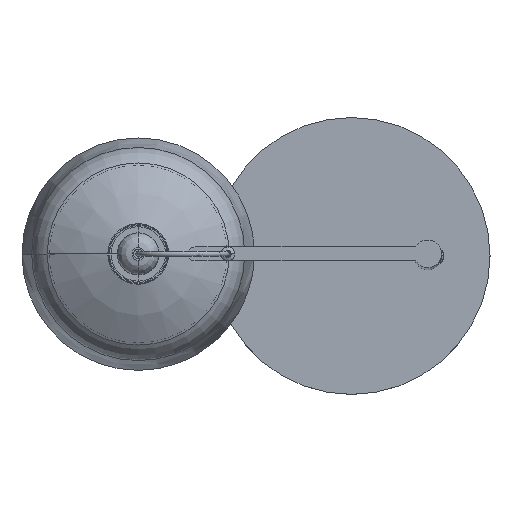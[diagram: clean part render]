
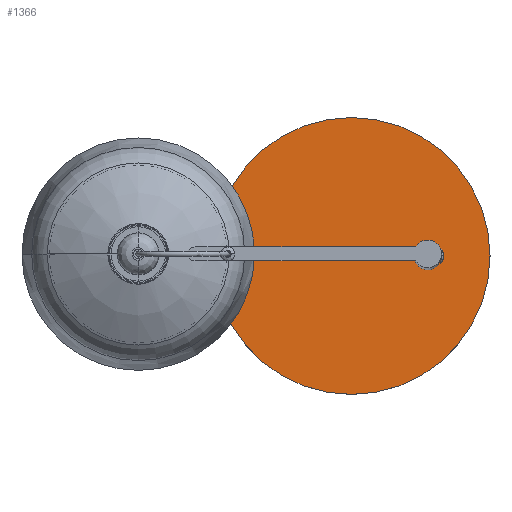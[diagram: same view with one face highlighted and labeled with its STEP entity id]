
A CAD part, top view. The second image highlights one B-rep face of the part: STEP entity #1366.
In plain terms, the highlighted planar face has unit normal (0, 0, 1).
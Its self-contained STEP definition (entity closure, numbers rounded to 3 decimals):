
#25=FACE_BOUND('',#314,.T.);
#219=FACE_OUTER_BOUND('',#313,.T.);
#313=EDGE_LOOP('',(#1210,#1211));
#314=EDGE_LOOP('',(#1212,#1213));
#384=CIRCLE('',#1515,150.);
#386=CIRCLE('',#1518,150.);
#388=CIRCLE('',#1522,15.);
#389=CIRCLE('',#1523,15.);
#655=VERTEX_POINT('',#3687);
#656=VERTEX_POINT('',#3688);
#659=VERTEX_POINT('',#3700);
#660=VERTEX_POINT('',#3701);
#840=EDGE_CURVE('',#655,#656,#384,.T.);
#844=EDGE_CURVE('',#656,#655,#386,.T.);
#846=EDGE_CURVE('',#659,#660,#388,.T.);
#847=EDGE_CURVE('',#660,#659,#389,.T.);
#1210=ORIENTED_EDGE('',*,*,#844,.T.);
#1211=ORIENTED_EDGE('',*,*,#840,.T.);
#1212=ORIENTED_EDGE('',*,*,#846,.F.);
#1213=ORIENTED_EDGE('',*,*,#847,.F.);
#1276=PLANE('',#1521);
#1366=ADVANCED_FACE('',(#219,#25),#1276,.T.);
#1515=AXIS2_PLACEMENT_3D('',#3689,#1882,#1883);
#1518=AXIS2_PLACEMENT_3D('',#3696,#1890,#1891);
#1521=AXIS2_PLACEMENT_3D('',#3699,#1896,#1897);
#1522=AXIS2_PLACEMENT_3D('',#3702,#1898,#1899);
#1523=AXIS2_PLACEMENT_3D('',#3703,#1900,#1901);
#1882=DIRECTION('center_axis',(0.,0.,1.));
#1883=DIRECTION('ref_axis',(1.,0.,0.));
#1890=DIRECTION('center_axis',(0.,0.,1.));
#1891=DIRECTION('ref_axis',(1.,0.,0.));
#1896=DIRECTION('center_axis',(0.,0.,1.));
#1897=DIRECTION('ref_axis',(0.,1.,0.));
#1898=DIRECTION('center_axis',(0.,0.,1.));
#1899=DIRECTION('ref_axis',(1.,0.,0.));
#1900=DIRECTION('center_axis',(0.,0.,1.));
#1901=DIRECTION('ref_axis',(1.,0.,0.));
#3687=CARTESIAN_POINT('',(150.,0.,22.));
#3688=CARTESIAN_POINT('',(-150.,0.,22.));
#3689=CARTESIAN_POINT('Origin',(0.,0.,22.));
#3696=CARTESIAN_POINT('Origin',(0.,0.,22.));
#3699=CARTESIAN_POINT('Origin',(150.,0.,22.));
#3700=CARTESIAN_POINT('',(67.496,0.,22.));
#3701=CARTESIAN_POINT('',(97.496,0.,22.));
#3702=CARTESIAN_POINT('Origin',(82.496,0.,22.));
#3703=CARTESIAN_POINT('Origin',(82.496,0.,22.));
